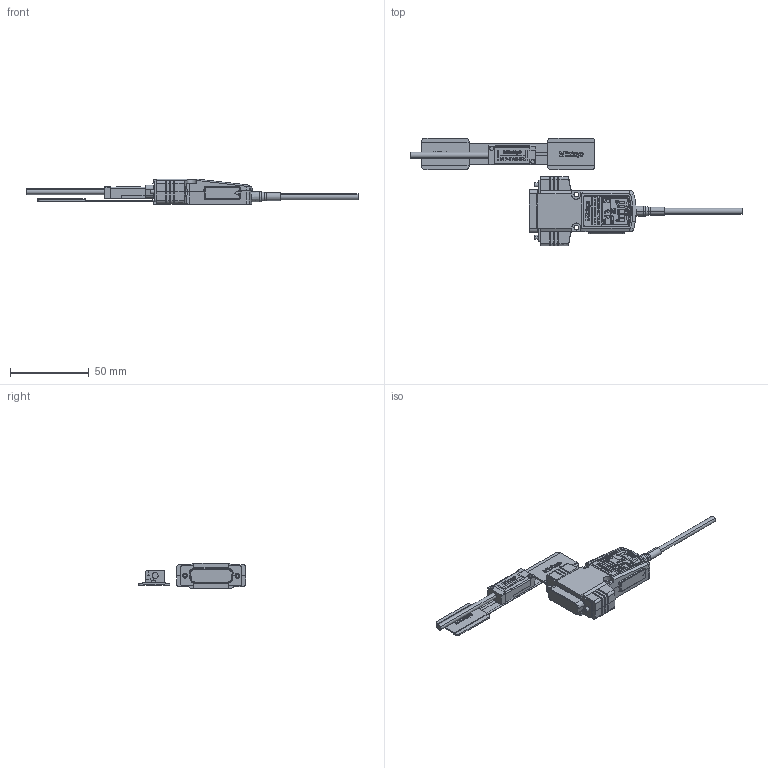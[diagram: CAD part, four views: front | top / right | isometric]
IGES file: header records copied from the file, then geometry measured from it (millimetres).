
Start section: Elysium IGES Interface
Global section: file name: 77H\\Utsu119s\kiyo_cad\data\3D\ST46EZA\HP掲載用_201803\ST46EZA-E\ST46EZA-10E.igs; native system: Creo Elements/Direct Modeling 18.1B  29-Sep-2012; preprocessor: Creo Element/Direct IGES_3D V2.2; author: Unknown; organization: Unknown; date: 20180316.144644; units: millimetre
Bounding box: 211 x 68.36 x 16.3 mm (x, y, z)
Volume: 5137.8 mm3; surface area: 17812.2 mm2
Topology: 3 solids, 5 shells, 2293 faces, 6209 edges, 4101 vertices
Faces by surface type: bspline 2293
